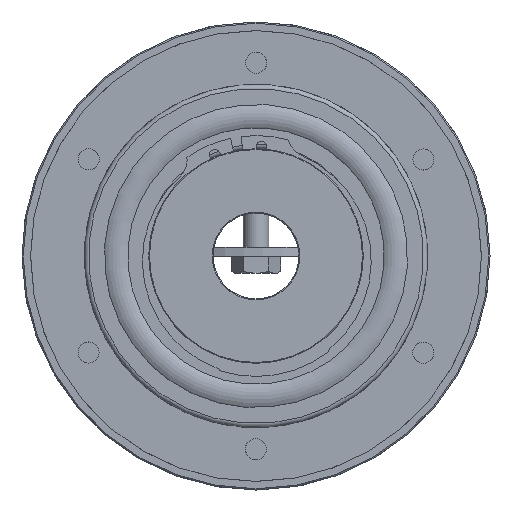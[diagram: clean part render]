
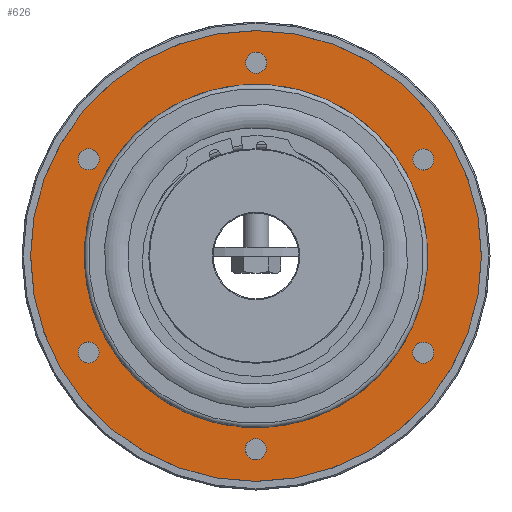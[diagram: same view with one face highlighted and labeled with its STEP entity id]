
A CAD part, left-side view. The second image highlights one B-rep face of the part: STEP entity #626.
In plain terms, the highlighted planar face has unit normal (-1, 0, 0).
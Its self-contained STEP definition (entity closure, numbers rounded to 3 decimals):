
#626 = ADVANCED_FACE( '', ( #1221, #1222, #1223, #1224, #1225, #1226, #1227, #1228 ), #1229, .F. );
#1221 = FACE_OUTER_BOUND( '', #1753, .T. );
#1222 = FACE_BOUND( '', #1754, .T. );
#1223 = FACE_BOUND( '', #1755, .T. );
#1224 = FACE_BOUND( '', #1756, .T. );
#1225 = FACE_BOUND( '', #1757, .T. );
#1226 = FACE_BOUND( '', #1758, .T. );
#1227 = FACE_BOUND( '', #1759, .T. );
#1228 = FACE_BOUND( '', #1760, .T. );
#1229 = PLANE( '', #1761 );
#1753 = EDGE_LOOP( '', ( #2769 ) );
#1754 = EDGE_LOOP( '', ( #2770 ) );
#1755 = EDGE_LOOP( '', ( #2771 ) );
#1756 = EDGE_LOOP( '', ( #2772 ) );
#1757 = EDGE_LOOP( '', ( #2773 ) );
#1758 = EDGE_LOOP( '', ( #2774 ) );
#1759 = EDGE_LOOP( '', ( #2775 ) );
#1760 = EDGE_LOOP( '', ( #2776 ) );
#1761 = AXIS2_PLACEMENT_3D( '', #2777, #2778, #2779 );
#2769 = ORIENTED_EDGE( '', *, *, #3148, .T. );
#2770 = ORIENTED_EDGE( '', *, *, #3150, .T. );
#2771 = ORIENTED_EDGE( '', *, *, #3151, .T. );
#2772 = ORIENTED_EDGE( '', *, *, #3152, .T. );
#2773 = ORIENTED_EDGE( '', *, *, #3153, .T. );
#2774 = ORIENTED_EDGE( '', *, *, #3154, .T. );
#2775 = ORIENTED_EDGE( '', *, *, #3155, .T. );
#2776 = ORIENTED_EDGE( '', *, *, #3146, .F. );
#2777 = CARTESIAN_POINT( '', ( -21.45, 52.5, 0. ) );
#2778 = DIRECTION( '', ( 1., 0., 0. ) );
#2779 = DIRECTION( '', ( 0., 1., 0. ) );
#3146 = EDGE_CURVE( '', #3642, #3642, #3643, .T. );
#3148 = EDGE_CURVE( '', #3646, #3646, #3647, .T. );
#3150 = EDGE_CURVE( '', #3650, #3650, #3651, .T. );
#3151 = EDGE_CURVE( '', #3652, #3652, #3653, .T. );
#3152 = EDGE_CURVE( '', #3654, #3654, #3655, .T. );
#3153 = EDGE_CURVE( '', #3656, #3656, #3657, .T. );
#3154 = EDGE_CURVE( '', #3658, #3658, #3659, .T. );
#3155 = EDGE_CURVE( '', #3660, #3660, #3661, .T. );
#3642 = VERTEX_POINT( '', #4520 );
#3643 = CIRCLE( '', #4521, 40. );
#3646 = VERTEX_POINT( '', #4524 );
#3647 = CIRCLE( '', #4525, 52.5 );
#3650 = VERTEX_POINT( '', #4528 );
#3651 = CIRCLE( '', #4529, 2.459 );
#3652 = VERTEX_POINT( '', #4530 );
#3653 = CIRCLE( '', #4531, 2.459 );
#3654 = VERTEX_POINT( '', #4532 );
#3655 = CIRCLE( '', #4533, 2.459 );
#3656 = VERTEX_POINT( '', #4534 );
#3657 = CIRCLE( '', #4535, 2.459 );
#3658 = VERTEX_POINT( '', #4536 );
#3659 = CIRCLE( '', #4537, 2.459 );
#3660 = VERTEX_POINT( '', #4538 );
#3661 = CIRCLE( '', #4539, 2.459 );
#4520 = CARTESIAN_POINT( '', ( -21.45, 0., 40. ) );
#4521 = AXIS2_PLACEMENT_3D( '', #5043, #5044, #5045 );
#4524 = CARTESIAN_POINT( '', ( -21.45, 0., 52.5 ) );
#4525 = AXIS2_PLACEMENT_3D( '', #5049, #5050, #5051 );
#4528 = CARTESIAN_POINT( '', ( -21.45, 41.1, 23.729 ) );
#4529 = AXIS2_PLACEMENT_3D( '', #5055, #5056, #5057 );
#4530 = CARTESIAN_POINT( '', ( -21.45, 41.1, -23.729 ) );
#4531 = AXIS2_PLACEMENT_3D( '', #5058, #5059, #5060 );
#4532 = CARTESIAN_POINT( '', ( -21.45, 0., -47.459 ) );
#4533 = AXIS2_PLACEMENT_3D( '', #5061, #5062, #5063 );
#4534 = CARTESIAN_POINT( '', ( -21.45, -41.1, -23.729 ) );
#4535 = AXIS2_PLACEMENT_3D( '', #5064, #5065, #5066 );
#4536 = CARTESIAN_POINT( '', ( -21.45, -41.1, 23.729 ) );
#4537 = AXIS2_PLACEMENT_3D( '', #5067, #5068, #5069 );
#4538 = CARTESIAN_POINT( '', ( -21.45, 0., 47.459 ) );
#4539 = AXIS2_PLACEMENT_3D( '', #5070, #5071, #5072 );
#5043 = CARTESIAN_POINT( '', ( -21.45, 0., 0. ) );
#5044 = DIRECTION( '', ( -1., 0., 0. ) );
#5045 = DIRECTION( '', ( 0., 0., 1. ) );
#5049 = CARTESIAN_POINT( '', ( -21.45, 0., 0. ) );
#5050 = DIRECTION( '', ( -1., 0., 0. ) );
#5051 = DIRECTION( '', ( 0., 0., 1. ) );
#5055 = CARTESIAN_POINT( '', ( -21.45, 38.971, 22.5 ) );
#5056 = DIRECTION( '', ( 1., 0., 0. ) );
#5057 = DIRECTION( '', ( 0., 0.866, 0.5 ) );
#5058 = CARTESIAN_POINT( '', ( -21.45, 38.971, -22.5 ) );
#5059 = DIRECTION( '', ( 1., 0., 0. ) );
#5060 = DIRECTION( '', ( 0., 0.866, -0.5 ) );
#5061 = CARTESIAN_POINT( '', ( -21.45, 0., -45. ) );
#5062 = DIRECTION( '', ( 1., 0., 0. ) );
#5063 = DIRECTION( '', ( 0., 0., -1. ) );
#5064 = CARTESIAN_POINT( '', ( -21.45, -38.971, -22.5 ) );
#5065 = DIRECTION( '', ( 1., 0., 0. ) );
#5066 = DIRECTION( '', ( 0., -0.866, -0.5 ) );
#5067 = CARTESIAN_POINT( '', ( -21.45, -38.971, 22.5 ) );
#5068 = DIRECTION( '', ( 1., 0., 0. ) );
#5069 = DIRECTION( '', ( 0., -0.866, 0.5 ) );
#5070 = CARTESIAN_POINT( '', ( -21.45, 0., 45. ) );
#5071 = DIRECTION( '', ( 1., 0., 0. ) );
#5072 = DIRECTION( '', ( 0., 0., 1. ) );
